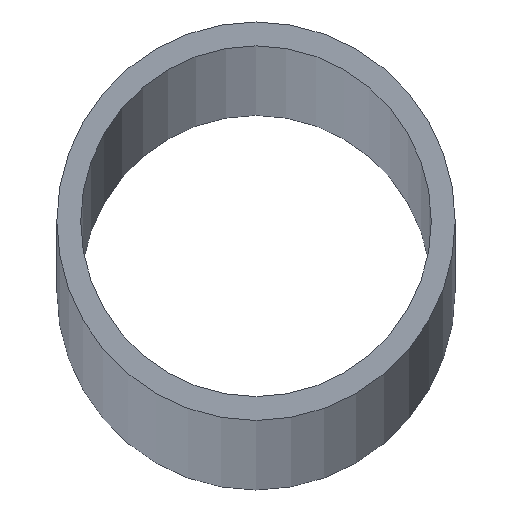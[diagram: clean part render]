
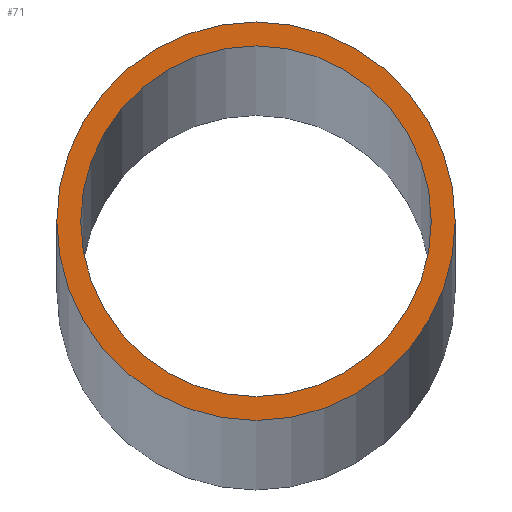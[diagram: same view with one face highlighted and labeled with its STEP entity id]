
A CAD part, top view. The second image highlights one B-rep face of the part: STEP entity #71.
In plain terms, the highlighted planar face has unit normal (0, 0, 1).
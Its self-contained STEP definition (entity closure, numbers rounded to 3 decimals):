
#7 = CARTESIAN_POINT ( 'NONE',  ( 0., 0., 2000. ) ) ;
#9 = AXIS2_PLACEMENT_3D ( 'NONE', #98, #23, #129 ) ;
#15 = ORIENTED_EDGE ( 'NONE', *, *, #63, .T. ) ;
#22 = PLANE ( 'NONE',  #57 ) ;
#23 = DIRECTION ( 'NONE',  ( 0., 0., 1. ) ) ;
#25 = DIRECTION ( 'NONE',  ( 0., 0., 1. ) ) ;
#33 = FACE_BOUND ( 'NONE', #140, .T. ) ;
#43 = DIRECTION ( 'NONE',  ( 1., 0., 0. ) ) ;
#51 = VERTEX_POINT ( 'NONE', #155 ) ;
#53 = AXIS2_PLACEMENT_3D ( 'NONE', #7, #68, #184 ) ;
#54 = AXIS2_PLACEMENT_3D ( 'NONE', #93, #64, #43 ) ;
#56 = CIRCLE ( 'NONE', #9, 8.8 ) ;
#57 = AXIS2_PLACEMENT_3D ( 'NONE', #61, #109, #127 ) ;
#61 = CARTESIAN_POINT ( 'NONE',  ( 0., 0., 2000. ) ) ;
#63 = EDGE_CURVE ( 'NONE', #51, #195, #120, .T. ) ;
#64 = DIRECTION ( 'NONE',  ( 0., 0., 1. ) ) ;
#65 = FACE_OUTER_BOUND ( 'NONE', #123, .T. ) ;
#68 = DIRECTION ( 'NONE',  ( 0., 0., 1. ) ) ;
#70 = AXIS2_PLACEMENT_3D ( 'NONE', #114, #25, #161 ) ;
#71 = ADVANCED_FACE ( 'NONE', ( #65, #33 ), #22, .T. ) ;
#77 = EDGE_CURVE ( 'NONE', #214, #150, #168, .T. ) ;
#93 = CARTESIAN_POINT ( 'NONE',  ( 0., 0., 2000. ) ) ;
#95 = CARTESIAN_POINT ( 'NONE',  ( -8.8, 0., 2000. ) ) ;
#98 = CARTESIAN_POINT ( 'NONE',  ( 0., 0., 2000. ) ) ;
#101 = ORIENTED_EDGE ( 'NONE', *, *, #77, .F. ) ;
#109 = DIRECTION ( 'NONE',  ( 0., 0., 1. ) ) ;
#114 = CARTESIAN_POINT ( 'NONE',  ( 0., 0., 2000. ) ) ;
#120 = CIRCLE ( 'NONE', #54, 10. ) ;
#123 = EDGE_LOOP ( 'NONE', ( #15, #165 ) ) ;
#124 = EDGE_CURVE ( 'NONE', #150, #214, #56, .T. ) ;
#127 = DIRECTION ( 'NONE',  ( 1., 0., 0. ) ) ;
#129 = DIRECTION ( 'NONE',  ( 1., 0., 0. ) ) ;
#140 = EDGE_LOOP ( 'NONE', ( #101, #185 ) ) ;
#150 = VERTEX_POINT ( 'NONE', #180 ) ;
#155 = CARTESIAN_POINT ( 'NONE',  ( -10., 0., 2000. ) ) ;
#161 = DIRECTION ( 'NONE',  ( 1., 0., 0. ) ) ;
#165 = ORIENTED_EDGE ( 'NONE', *, *, #172, .T. ) ;
#168 = CIRCLE ( 'NONE', #53, 8.8 ) ;
#172 = EDGE_CURVE ( 'NONE', #195, #51, #200, .T. ) ;
#180 = CARTESIAN_POINT ( 'NONE',  ( 8.8, 0., 2000. ) ) ;
#184 = DIRECTION ( 'NONE',  ( 1., 0., 0. ) ) ;
#185 = ORIENTED_EDGE ( 'NONE', *, *, #124, .F. ) ;
#195 = VERTEX_POINT ( 'NONE', #209 ) ;
#200 = CIRCLE ( 'NONE', #70, 10. ) ;
#209 = CARTESIAN_POINT ( 'NONE',  ( 10., 0., 2000. ) ) ;
#214 = VERTEX_POINT ( 'NONE', #95 ) ;
